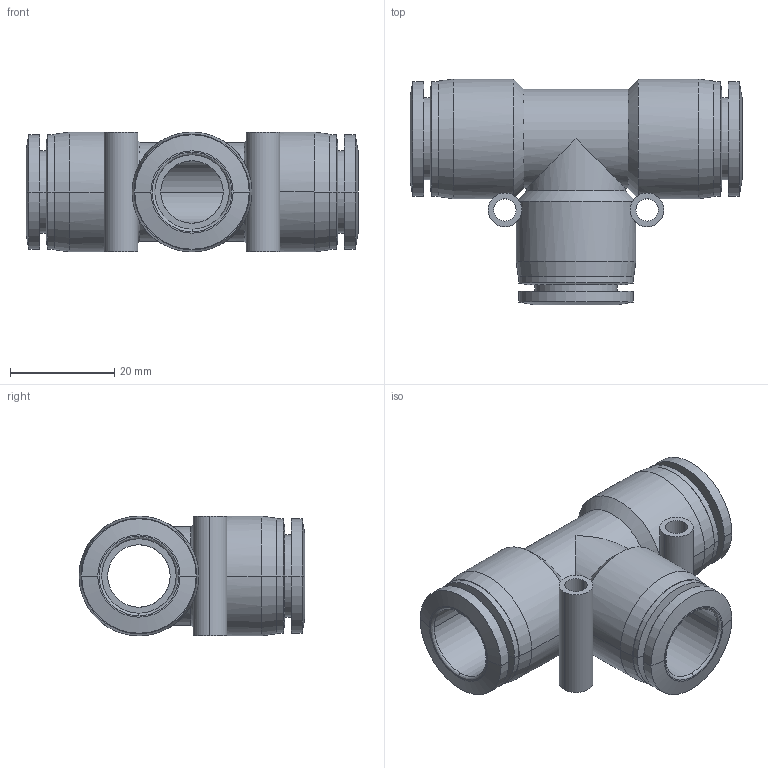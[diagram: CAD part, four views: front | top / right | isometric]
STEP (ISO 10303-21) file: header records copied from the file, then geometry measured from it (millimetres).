
FILE_DESCRIPTION (( 'STEP AP203' ), '1' );
FILE_NAME ('FT14-00.STEP', '2020-05-06T15:26:57', ( '' ), ( '' ), 'SwSTEP 2.0', 'SolidWorks 2019', '' );
FILE_SCHEMA (( 'CONFIG_CONTROL_DESIGN' ));
Length unit declared in the file: millimetre
Products named in the file (1): FT14-00
Bounding box: 63.8 x 43.4 x 23 mm (x, y, z)
Volume: 18621.2 mm3; surface area: 12704 mm2
Topology: 1 solids, 1 shells, 95 faces, 226 edges, 142 vertices
Faces by surface type: cylinder 46, cone 24, plane 19, bspline 6
Entity records: 3573 total; most frequent: CARTESIAN_POINT 1272, DIRECTION 490, ORIENTED_EDGE 452, EDGE_CURVE 226, AXIS2_PLACEMENT_3D 208, VERTEX_POINT 142, CIRCLE 118, EDGE_LOOP 116
